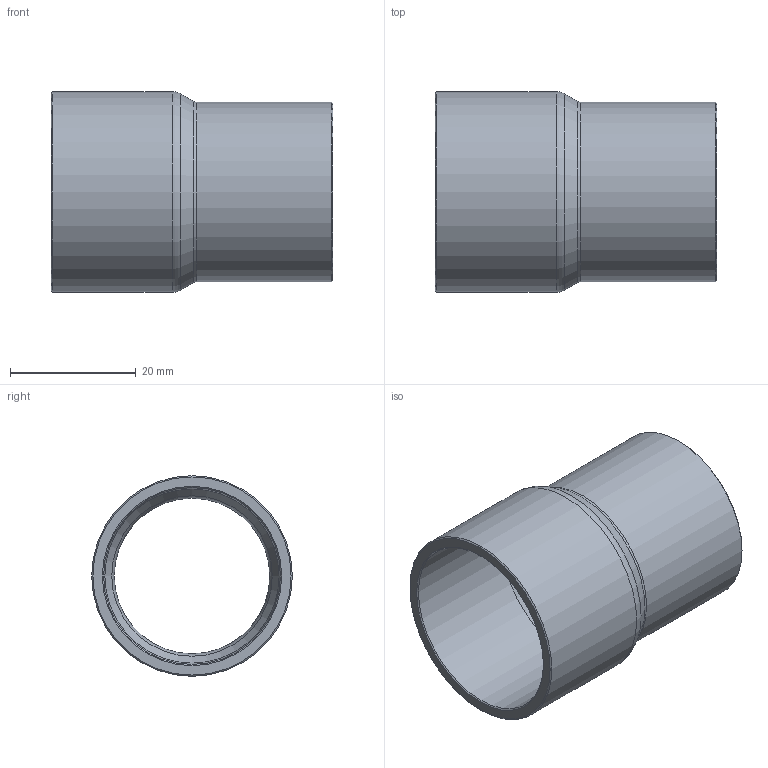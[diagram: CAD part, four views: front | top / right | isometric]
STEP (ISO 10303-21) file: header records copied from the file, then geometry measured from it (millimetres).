
FILE_DESCRIPTION((''),'2;1');
FILE_NAME('G:\SANHA-Ternat\Technik\Management\Bouwmaten + markeringen\z-maattekeningen 3D\29000s\29243IM11828_3d.stp','2017-08-07T11:47:02',('vdvijverd'),(''),'Autodesk Inventor 2009','Autodesk Inventor 2009','');
FILE_SCHEMA(('AUTOMOTIVE_DESIGN { 1 0 10303 214 1 1 1 1 }'));
Length unit declared in the file: millimetre
Products named in the file (1): 29243IM11828_3d
Bounding box: 44.9 x 31.95 x 31.95 mm (x, y, z)
Volume: 7638.9 mm3; surface area: 8343.4 mm2
Topology: 1 solids, 1 shells, 16 faces, 30 edges, 16 vertices
Faces by surface type: cone 6, cylinder 4, plane 2, torus 2, bspline 2
Full cylindrical faces by diameter (mm): 24.77 x1, 28.15 x1, 28.57 x1, 31.95 x1
Entity records: 434 total; most frequent: CARTESIAN_POINT 137, DIRECTION 62, ORIENTED_EDGE 32, EDGE_LOOP 32, AXIS2_PLACEMENT_3D 31, VERTEX_POINT 16, CIRCLE 16, EDGE_CURVE 16
